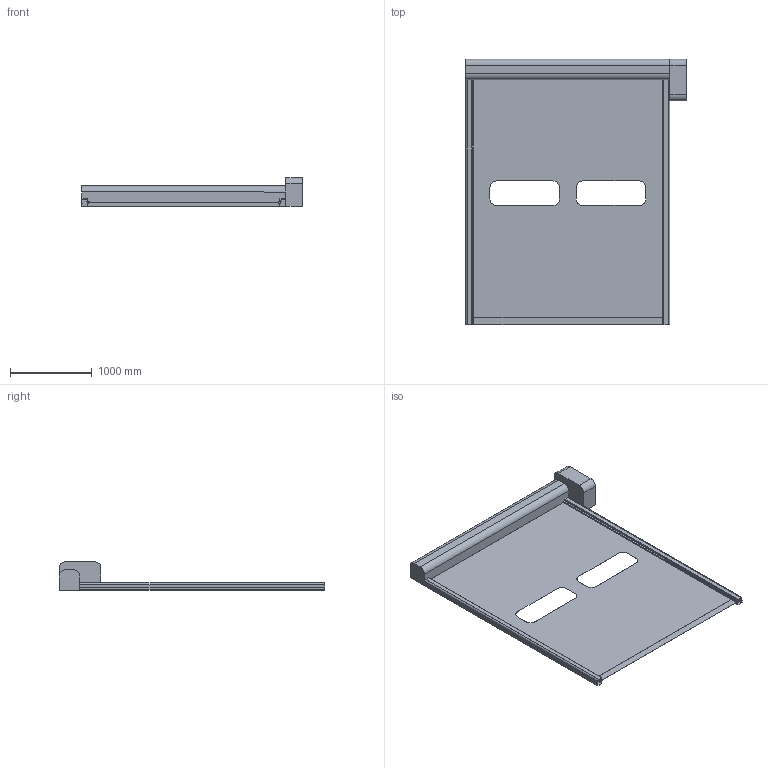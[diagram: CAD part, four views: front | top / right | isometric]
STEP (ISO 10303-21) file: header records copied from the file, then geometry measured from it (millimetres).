
FILE_DESCRIPTION (( 'STEP AP203' ), '1' );
FILE_NAME ('Dyn_food&90.STEP', '2018-07-16T14:17:28', ( '' ), ( '' ), 'SwSTEP 2.0', 'SolidWorks 2018', '' );
FILE_SCHEMA (( 'CONFIG_CONTROL_DESIGN' ));
Length unit declared in the file: millimetre
Products named in the file (1): Dyn_food&90
Bounding box: 2700 x 3250 x 350 mm (x, y, z)
Volume: 195341852.3 mm3; surface area: 20696963.1 mm2
Topology: 6 solids, 6 shells, 172 faces, 480 edges, 320 vertices
Faces by surface type: plane 96, cylinder 76
Entity records: 5639 total; most frequent: DIRECTION 978, CARTESIAN_POINT 973, ORIENTED_EDGE 960, EDGE_CURVE 480, VECTOR 328, LINE 328, AXIS2_PLACEMENT_3D 325, VERTEX_POINT 320
